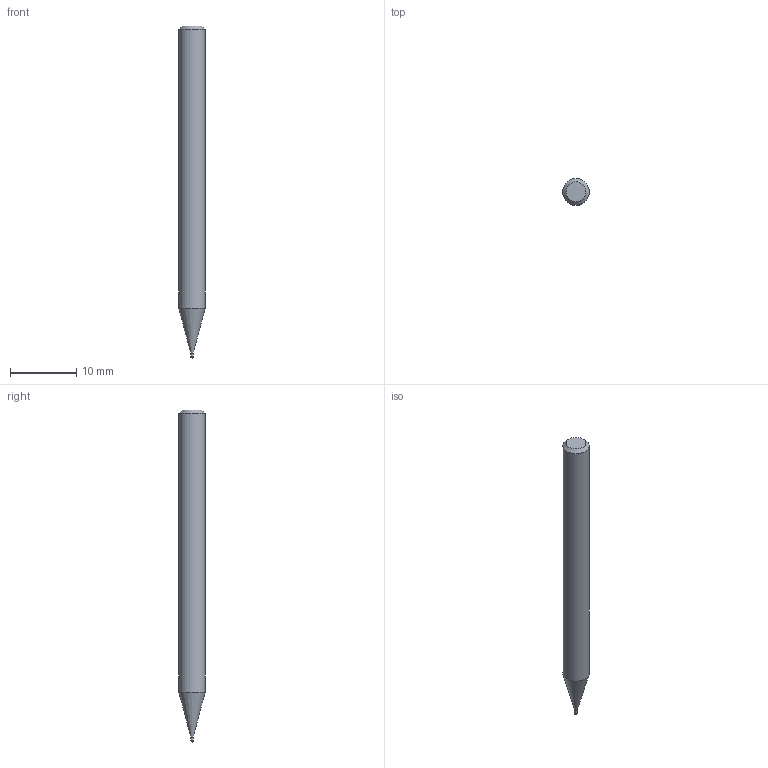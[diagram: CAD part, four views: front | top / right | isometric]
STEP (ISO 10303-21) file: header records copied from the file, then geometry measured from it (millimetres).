
FILE_DESCRIPTION((''),'2;1');
FILE_NAME('C:\Users\nsx150\AppData\Local\Temp\Mastercam 2021\LJSIDMOTM8\TEMP.step','2021-08-03T14:22:52',(''),(''),'STEP Write','Mastercam 2021 ... CNC Software, Inc.','');
FILE_SCHEMA(('AUTOMOTIVE_DESIGN'));
Length unit declared in the file: millimetre
Products named in the file (1): None
Bounding box: 4 x 4 x 50 mm (x, y, z)
Volume: 563.7 mm3; surface area: 591.6 mm2
Topology: 2 solids, 2 shells, 9 faces, 14 edges, 8 vertices
Faces by surface type: plane 3, cylinder 3, cone 2, sphere 1
Full cylindrical faces by diameter (mm): 0.37 x1, 0.4 x1, 4 x1
Entity records: 211 total; most frequent: DIRECTION 36, CARTESIAN_POINT 25, AXIS2_PLACEMENT_3D 18, ORIENTED_EDGE 14, EDGE_LOOP 14, STYLED_ITEM 12, ADVANCED_FACE 9, FACE_BOUND 8
